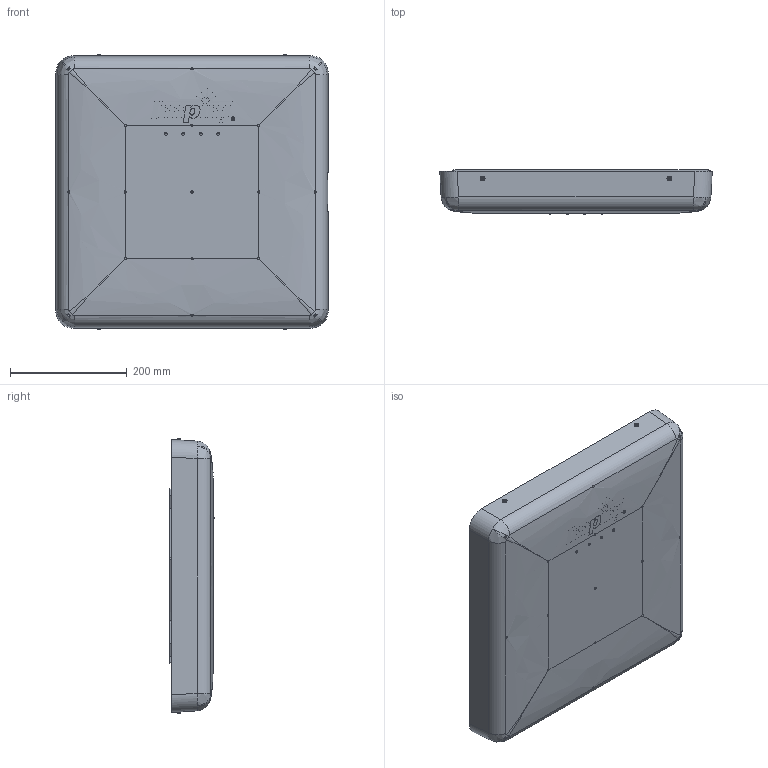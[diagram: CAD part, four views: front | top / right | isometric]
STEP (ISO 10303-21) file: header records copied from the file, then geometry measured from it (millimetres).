
FILE_DESCRIPTION (( 'STEP AP203' ), '1' );
FILE_NAME ('xArray.STEP', '2014-12-31T19:20:03', ( '' ), ( '' ), 'SwSTEP 2.0', 'SolidWorks 2014', '' );
FILE_SCHEMA (( 'CONFIG_CONTROL_DESIGN' ));
Length unit declared in the file: millimetre
Products named in the file (20): 272550; 272542; PLP5-2-1250; 902863; 272543; 915203; xArray; 272544; 272534; PEM, SPOTFAST, SF-3-1.6-ZI; 272535; AD42AH; 272530; 272540; 272541; PEM, NUT, FLUSH, F-M4-1; B-M6-1ZI; 272531
Assembly tree (45 placements, depth 4):
  xArray
    272530
      272531
      PLP5-2-1250  x4
      272535  x2
        915203
        272534
    272540
      272541
        272541
        PEM, NUT, FLUSH, F-M4-1  x4
      272542
      272543
      272544  x2
      PEM, SPOTFAST, SF-3-1.6-ZI  x10
      AD42AH  x4
    272550
      272550
      B-M6-1ZI  x4
    902863  x4
Bounding box: 467.55 x 76.19 x 472.56 mm (x, y, z)
Volume: 1725032.9 mm3; surface area: 1465566 mm2
Topology: 50 solids, 50 shells, 2145 faces, 5175 edges, 3172 vertices
Faces by surface type: plane 896, cylinder 707, bspline 342, cone 184, sphere 16
Entity records: 60856 total; most frequent: CARTESIAN_POINT 26369, ORIENTED_EDGE 6868, DIRECTION 6084, EDGE_CURVE 3434, VERTEX_POINT 2113, AXIS2_PLACEMENT_3D 2035, LINE 2014, VECTOR 2014
